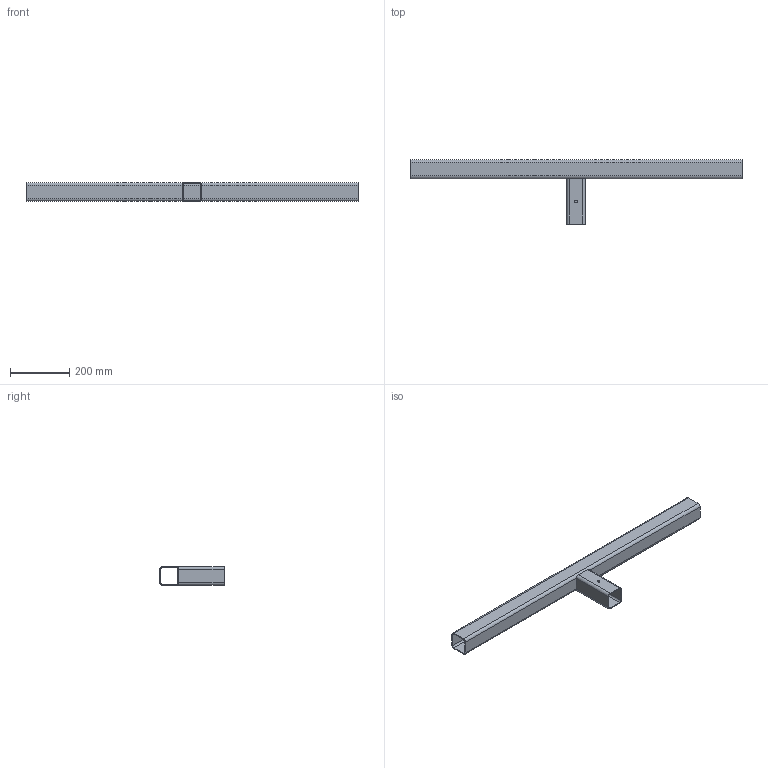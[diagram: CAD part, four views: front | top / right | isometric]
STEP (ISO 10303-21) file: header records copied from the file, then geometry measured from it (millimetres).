
FILE_DESCRIPTION (( 'STEP AP214' ), '1' );
FILE_NAME ('LM-UMB.STEP', '2019-02-22T20:40:58', ( '' ), ( '' ), 'SwSTEP 2.0', 'SolidWorks 2016', '' );
FILE_SCHEMA (( 'AUTOMOTIVE_DESIGN' ));
Length unit declared in the file: inch
Products named in the file (1): LM-UMB
Bounding box: 1117.6 x 215.9 x 63.5 mm (x, y, z)
Volume: 917863.7 mm3; surface area: 581155.6 mm2
Topology: 2 solids, 2 shells, 38 faces, 102 edges, 68 vertices
Faces by surface type: plane 20, cylinder 18
Entity records: 1265 total; most frequent: DIRECTION 216, CARTESIAN_POINT 209, ORIENTED_EDGE 204, EDGE_CURVE 102, AXIS2_PLACEMENT_3D 75, VERTEX_POINT 68, VECTOR 66, LINE 66
